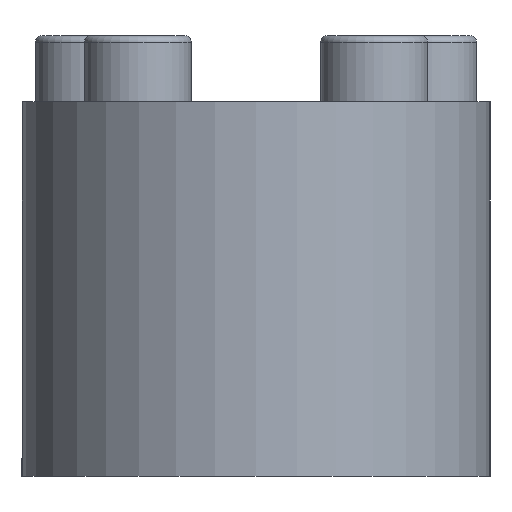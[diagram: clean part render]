
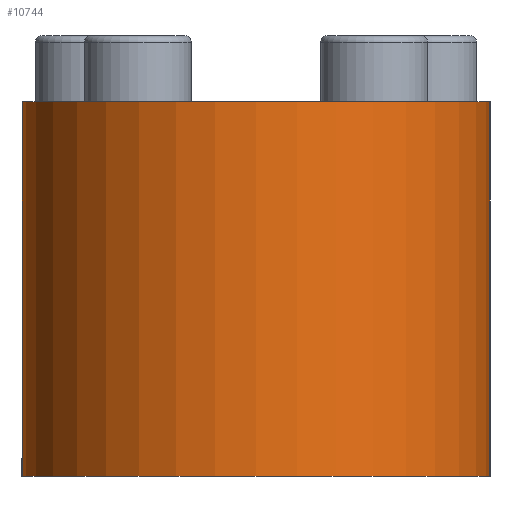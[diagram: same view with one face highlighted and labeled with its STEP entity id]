
A CAD part, left-side view. The second image highlights one B-rep face of the part: STEP entity #10744.
In plain terms, the highlighted cylindrical face has radius 35 mm (diameter 70 mm), a partial arc.
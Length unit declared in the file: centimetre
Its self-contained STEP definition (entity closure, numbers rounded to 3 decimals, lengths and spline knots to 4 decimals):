
#864=CYLINDRICAL_SURFACE('',#11348,3.5);
#1486=FACE_OUTER_BOUND('',#2086,.T.);
#2086=EDGE_LOOP('',(#7345,#7346,#7347,#7348));
#2789=LINE('',#13690,#3751);
#2790=LINE('',#13694,#3752);
#3751=VECTOR('',#11813,5.6);
#3752=VECTOR('',#11816,5.6);
#4713=CIRCLE('',#11349,3.5);
#4714=CIRCLE('',#11350,3.5);
#4777=VERTEX_POINT('',#13688);
#4778=VERTEX_POINT('',#13689);
#4779=VERTEX_POINT('',#13691);
#4780=VERTEX_POINT('',#13693);
#5813=EDGE_CURVE('',#4777,#4778,#2789,.T.);
#5814=EDGE_CURVE('',#4779,#4778,#4713,.T.);
#5815=EDGE_CURVE('',#4780,#4779,#2790,.T.);
#5816=EDGE_CURVE('',#4777,#4780,#4714,.T.);
#7345=ORIENTED_EDGE('',*,*,#5813,.T.);
#7346=ORIENTED_EDGE('',*,*,#5814,.F.);
#7347=ORIENTED_EDGE('',*,*,#5815,.F.);
#7348=ORIENTED_EDGE('',*,*,#5816,.F.);
#10744=ADVANCED_FACE('',(#1486),#864,.T.);
#11348=AXIS2_PLACEMENT_3D('',#13687,#11811,#11812);
#11349=AXIS2_PLACEMENT_3D('',#13692,#11814,#11815);
#11350=AXIS2_PLACEMENT_3D('',#13695,#11817,#11818);
#11811=DIRECTION('center_axis',(0.,0.,
-1.));
#11812=DIRECTION('ref_axis',(0.,1.,0.));
#11813=DIRECTION('',(0.,0.,1.));
#11814=DIRECTION('center_axis',(0.,0.,
1.));
#11815=DIRECTION('ref_axis',(0.,1.,0.));
#11816=DIRECTION('',(0.,0.,1.));
#11817=DIRECTION('center_axis',(0.,0.,-1.));
#11818=DIRECTION('ref_axis',(0.,-1.,0.));
#13687=CARTESIAN_POINT('Origin',(-15.3,0.,5.6));
#13688=CARTESIAN_POINT('',(-15.3,-3.5,0.));
#13689=CARTESIAN_POINT('',(-15.3,-3.5,5.6));
#13690=CARTESIAN_POINT('',(-15.3,-3.5,0.));
#13691=CARTESIAN_POINT('',(-15.3,3.5,5.6));
#13692=CARTESIAN_POINT('Origin',(-15.3,0.,5.6));
#13693=CARTESIAN_POINT('',(-15.3,3.5,0.));
#13694=CARTESIAN_POINT('',(-15.3,3.5,0.));
#13695=CARTESIAN_POINT('Origin',(-15.3,0.,0.));
